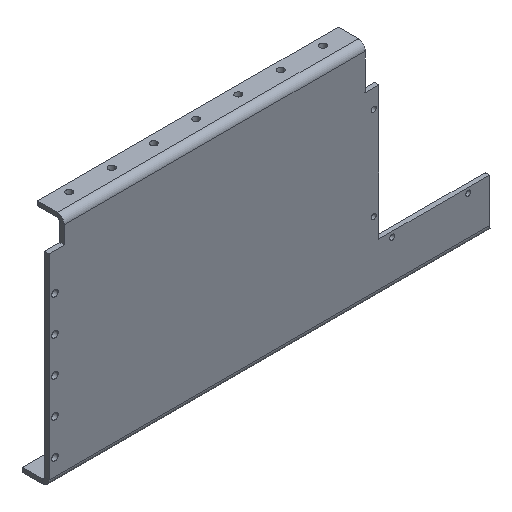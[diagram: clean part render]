
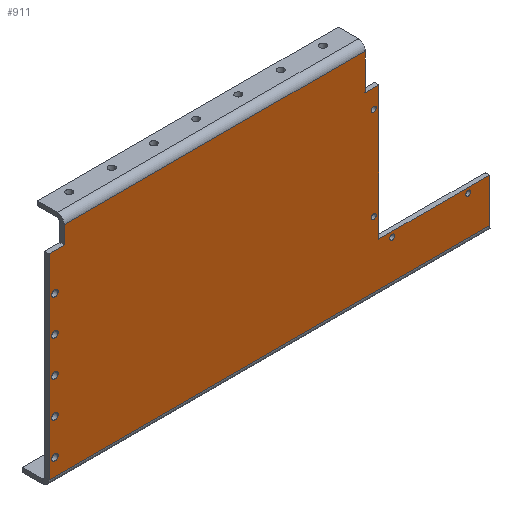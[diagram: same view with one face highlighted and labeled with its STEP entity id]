
A CAD part, isometric view. The second image highlights one B-rep face of the part: STEP entity #911.
In plain terms, the highlighted planar face has unit normal (0, -1, 0).
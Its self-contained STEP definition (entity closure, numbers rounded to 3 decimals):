
#26=PLANE('',#1012);
#43=LINE('',#1414,#99);
#58=LINE('',#1450,#114);
#61=LINE('',#1456,#117);
#62=LINE('',#1458,#118);
#63=LINE('',#1460,#119);
#64=LINE('',#1462,#120);
#65=LINE('',#1464,#121);
#66=LINE('',#1466,#122);
#67=LINE('',#1468,#123);
#68=LINE('',#1469,#124);
#99=VECTOR('',#1173,178.);
#114=VECTOR('',#1212,21.425);
#117=VECTOR('',#1217,10.425);
#118=VECTOR('',#1218,9.);
#119=VECTOR('',#1219,115.835);
#120=VECTOR('',#1220,260.586);
#121=VECTOR('',#1221,25.835);
#122=VECTOR('',#1222,65.586);
#123=VECTOR('',#1223,79.);
#124=VECTOR('',#1224,8.);
#190=FACE_BOUND('',#340,.T.);
#191=FACE_BOUND('',#341,.T.);
#192=FACE_BOUND('',#342,.T.);
#193=FACE_BOUND('',#343,.T.);
#194=FACE_BOUND('',#344,.T.);
#195=FACE_BOUND('',#345,.T.);
#196=FACE_BOUND('',#346,.T.);
#197=FACE_BOUND('',#347,.T.);
#198=FACE_BOUND('',#348,.T.);
#252=FACE_OUTER_BOUND('',#339,.T.);
#339=EDGE_LOOP('',(#731,#732,#733,#734,#735,#736,#737,#738,#739,#740));
#340=EDGE_LOOP('',(#741));
#341=EDGE_LOOP('',(#742));
#342=EDGE_LOOP('',(#743));
#343=EDGE_LOOP('',(#744));
#344=EDGE_LOOP('',(#745));
#345=EDGE_LOOP('',(#746));
#346=EDGE_LOOP('',(#747));
#347=EDGE_LOOP('',(#748));
#348=EDGE_LOOP('',(#749));
#415=CIRCLE('',#973,1.9);
#417=CIRCLE('',#976,1.9);
#419=CIRCLE('',#979,1.9);
#421=CIRCLE('',#982,1.9);
#423=CIRCLE('',#985,1.9);
#425=CIRCLE('',#988,1.5);
#427=CIRCLE('',#991,1.5);
#429=CIRCLE('',#994,1.5);
#431=CIRCLE('',#997,1.5);
#467=VERTEX_POINT('',#1365);
#469=VERTEX_POINT('',#1370);
#471=VERTEX_POINT('',#1375);
#473=VERTEX_POINT('',#1380);
#475=VERTEX_POINT('',#1385);
#477=VERTEX_POINT('',#1390);
#479=VERTEX_POINT('',#1395);
#481=VERTEX_POINT('',#1400);
#483=VERTEX_POINT('',#1405);
#486=VERTEX_POINT('',#1411);
#487=VERTEX_POINT('',#1413);
#496=VERTEX_POINT('',#1449);
#498=VERTEX_POINT('',#1455);
#499=VERTEX_POINT('',#1457);
#500=VERTEX_POINT('',#1459);
#501=VERTEX_POINT('',#1461);
#502=VERTEX_POINT('',#1463);
#503=VERTEX_POINT('',#1465);
#504=VERTEX_POINT('',#1467);
#550=EDGE_CURVE('',#467,#467,#415,.T.);
#552=EDGE_CURVE('',#469,#469,#417,.T.);
#554=EDGE_CURVE('',#471,#471,#419,.T.);
#556=EDGE_CURVE('',#473,#473,#421,.T.);
#558=EDGE_CURVE('',#475,#475,#423,.T.);
#560=EDGE_CURVE('',#477,#477,#425,.T.);
#562=EDGE_CURVE('',#479,#479,#427,.T.);
#564=EDGE_CURVE('',#481,#481,#429,.T.);
#566=EDGE_CURVE('',#483,#483,#431,.T.);
#569=EDGE_CURVE('',#487,#486,#43,.T.);
#587=EDGE_CURVE('',#496,#487,#58,.T.);
#590=EDGE_CURVE('',#486,#498,#61,.T.);
#591=EDGE_CURVE('',#498,#499,#62,.T.);
#592=EDGE_CURVE('',#500,#499,#63,.T.);
#593=EDGE_CURVE('',#500,#501,#64,.T.);
#594=EDGE_CURVE('',#501,#502,#65,.T.);
#595=EDGE_CURVE('',#502,#503,#66,.T.);
#596=EDGE_CURVE('',#503,#504,#67,.T.);
#597=EDGE_CURVE('',#504,#496,#68,.T.);
#731=ORIENTED_EDGE('',*,*,#569,.T.);
#732=ORIENTED_EDGE('',*,*,#590,.T.);
#733=ORIENTED_EDGE('',*,*,#591,.T.);
#734=ORIENTED_EDGE('',*,*,#592,.F.);
#735=ORIENTED_EDGE('',*,*,#593,.T.);
#736=ORIENTED_EDGE('',*,*,#594,.T.);
#737=ORIENTED_EDGE('',*,*,#595,.T.);
#738=ORIENTED_EDGE('',*,*,#596,.T.);
#739=ORIENTED_EDGE('',*,*,#597,.T.);
#740=ORIENTED_EDGE('',*,*,#587,.T.);
#741=ORIENTED_EDGE('',*,*,#550,.T.);
#742=ORIENTED_EDGE('',*,*,#552,.T.);
#743=ORIENTED_EDGE('',*,*,#554,.T.);
#744=ORIENTED_EDGE('',*,*,#556,.T.);
#745=ORIENTED_EDGE('',*,*,#558,.T.);
#746=ORIENTED_EDGE('',*,*,#560,.T.);
#747=ORIENTED_EDGE('',*,*,#562,.T.);
#748=ORIENTED_EDGE('',*,*,#564,.T.);
#749=ORIENTED_EDGE('',*,*,#566,.T.);
#911=ADVANCED_FACE('',(#252,#190,#191,#192,#193,#194,#195,#196,#197,#198),
#26,.F.);
#973=AXIS2_PLACEMENT_3D('',#1366,#1118,#1119);
#976=AXIS2_PLACEMENT_3D('',#1371,#1124,#1125);
#979=AXIS2_PLACEMENT_3D('',#1376,#1130,#1131);
#982=AXIS2_PLACEMENT_3D('',#1381,#1136,#1137);
#985=AXIS2_PLACEMENT_3D('',#1386,#1142,#1143);
#988=AXIS2_PLACEMENT_3D('',#1391,#1148,#1149);
#991=AXIS2_PLACEMENT_3D('',#1396,#1154,#1155);
#994=AXIS2_PLACEMENT_3D('',#1401,#1160,#1161);
#997=AXIS2_PLACEMENT_3D('',#1406,#1166,#1167);
#1012=AXIS2_PLACEMENT_3D('',#1454,#1215,#1216);
#1118=DIRECTION('center_axis',(0.,1.,0.));
#1119=DIRECTION('ref_axis',(1.,0.,0.));
#1124=DIRECTION('center_axis',(0.,1.,0.));
#1125=DIRECTION('ref_axis',(1.,0.,0.));
#1130=DIRECTION('center_axis',(0.,1.,0.));
#1131=DIRECTION('ref_axis',(1.,0.,0.));
#1136=DIRECTION('center_axis',(0.,1.,0.));
#1137=DIRECTION('ref_axis',(1.,0.,0.));
#1142=DIRECTION('center_axis',(0.,1.,0.));
#1143=DIRECTION('ref_axis',(1.,0.,0.));
#1148=DIRECTION('center_axis',(0.,1.,0.));
#1149=DIRECTION('ref_axis',(1.,0.,0.));
#1154=DIRECTION('center_axis',(0.,1.,0.));
#1155=DIRECTION('ref_axis',(1.,0.,0.));
#1160=DIRECTION('center_axis',(0.,1.,0.));
#1161=DIRECTION('ref_axis',(1.,0.,0.));
#1166=DIRECTION('center_axis',(0.,1.,0.));
#1167=DIRECTION('ref_axis',(1.,0.,0.));
#1173=DIRECTION('',(-1.,0.,0.));
#1212=DIRECTION('',(0.,0.,1.));
#1215=DIRECTION('center_axis',(0.,1.,0.));
#1216=DIRECTION('ref_axis',(0.,0.,1.));
#1217=DIRECTION('',(0.,0.,-1.));
#1218=DIRECTION('',(-1.,0.,0.));
#1219=DIRECTION('',(0.,0.,1.));
#1220=DIRECTION('',(1.,0.,0.));
#1221=DIRECTION('',(0.,0.,1.));
#1222=DIRECTION('',(-1.,0.,0.));
#1223=DIRECTION('',(0.,0.,1.));
#1224=DIRECTION('',(-1.,0.,0.));
#1365=CARTESIAN_POINT('',(-194.6,0.,-31.));
#1366=CARTESIAN_POINT('Origin',(-196.5,0.,-31.));
#1370=CARTESIAN_POINT('',(-194.6,0.,11.));
#1371=CARTESIAN_POINT('Origin',(-196.5,0.,11.));
#1375=CARTESIAN_POINT('',(-194.6,0.,32.));
#1376=CARTESIAN_POINT('Origin',(-196.5,0.,32.));
#1380=CARTESIAN_POINT('',(-194.6,0.,-10.));
#1381=CARTESIAN_POINT('Origin',(-196.5,0.,-10.));
#1385=CARTESIAN_POINT('',(-194.6,0.,-52.));
#1386=CARTESIAN_POINT('Origin',(-196.5,0.,-52.));
#1390=CARTESIAN_POINT('',(-6.5,0.,-23.));
#1391=CARTESIAN_POINT('Origin',(-8.,0.,
-23.));
#1395=CARTESIAN_POINT('',(-6.5,0.,32.));
#1396=CARTESIAN_POINT('Origin',(-8.,0.,
32.));
#1400=CARTESIAN_POINT('',(4.5,0.,-39.));
#1401=CARTESIAN_POINT('Origin',(3.,0.,-39.));
#1405=CARTESIAN_POINT('',(49.5,0.,-39.));
#1406=CARTESIAN_POINT('Origin',(48.,0.,-39.));
#1411=CARTESIAN_POINT('',(-191.,0.,64.425));
#1413=CARTESIAN_POINT('',(-13.,0.,64.425));
#1414=CARTESIAN_POINT('',(7.348,0.,64.425));
#1449=CARTESIAN_POINT('',(-13.,0.,43.));
#1450=CARTESIAN_POINT('',(-13.,0.,35.348));
#1454=CARTESIAN_POINT('Origin',(27.696,0.,27.696));
#1455=CARTESIAN_POINT('',(-191.,0.,54.));
#1456=CARTESIAN_POINT('',(-191.,0.,46.848));
#1457=CARTESIAN_POINT('',(-200.,0.,54.));
#1458=CARTESIAN_POINT('',(-81.652,0.,54.));
#1459=CARTESIAN_POINT('',(-200.,0.,-61.835));
#1460=CARTESIAN_POINT('',(-200.,0.,-66.));
#1461=CARTESIAN_POINT('',(60.586,0.,-61.835));
#1462=CARTESIAN_POINT('',(-86.152,0.,-61.835));
#1463=CARTESIAN_POINT('',(60.586,0.,-36.));
#1464=CARTESIAN_POINT('',(60.586,0.,-17.42));
#1465=CARTESIAN_POINT('',(-5.,0.,-36.));
#1466=CARTESIAN_POINT('',(44.141,0.,-36.));
#1467=CARTESIAN_POINT('',(-5.,0.,43.));
#1468=CARTESIAN_POINT('',(-5.,0.,-4.152));
#1469=CARTESIAN_POINT('',(11.348,0.,43.));
